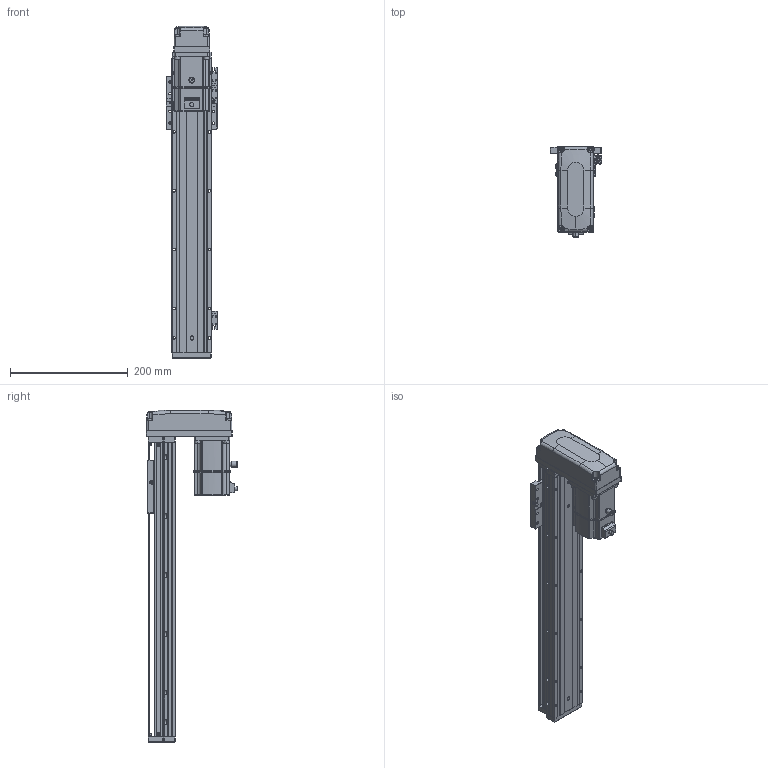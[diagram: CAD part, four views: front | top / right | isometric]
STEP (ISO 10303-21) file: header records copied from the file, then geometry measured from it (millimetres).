
FILE_DESCRIPTION (( 'STEP AP203' ), '1' );
FILE_NAME ('KTHAL60-350-BM-M20-C4L.step', '2022-12-16T02:10:08', ( '微软用户' ), ( '微软中国' ), 'SwSTEP 2.0', 'SolidWorks 2020', '' );
FILE_SCHEMA (( 'CONFIG_CONTROL_DESIGN' ));
Length unit declared in the file: millimetre
Products named in the file (17): GBT 70.3-M3℅6; CTHA60-016; EE_SX911P_R; _X2_4E0983F1_X0_200W_1; KTHA60-001_500; CTHA60-017; CTHA60-015-4_CTHA60-015-4; KTHLA60-002; CTHA60-021; GTH80-026; KTHA60-004; GBT 70.1-M4×16; KTHAL60-350-BM-M20-C4L; KTHA60-005; GBT77-2000M3-3; GB¨uT 70.2-M3¡Á5_M3¡Á6; GBT 70.1-M3℅6
Assembly tree (45 placements, depth 2):
  KTHAL60-350-BM-M20-C4L
    KTHA60-001_500
    KTHLA60-002
    KTHA60-004
    KTHA60-005
    GB¨uT 70.2-M3¡Á5_M3¡Á6  x5
    GBT 70.3-M3℅6  x4
    EE_SX911P_R  x3
    CTHA60-017  x3
    CTHA60-021  x2
    GBT 70.1-M4×16  x8
    GBT77-2000M3-3  x6
    GBT 70.1-M3℅6  x6
    CTHA60-016
    _X2_4E0983F1_X0_200W_1
    CTHA60-015-4_CTHA60-015-4
    GTH80-026
Bounding box: 87.82 x 155.2 x 564 mm (x, y, z)
Volume: 1677378.5 mm3; surface area: 350478.4 mm2
Topology: 48 solids, 48 shells, 2331 faces, 5548 edges, 3409 vertices
Faces by surface type: plane 1247, cylinder 617, cone 268, bspline 103, torus 82, sphere 14
Entity records: 45247 total; most frequent: CARTESIAN_POINT 10154, DIRECTION 6811, ORIENTED_EDGE 6720, EDGE_CURVE 3360, AXIS2_PLACEMENT_3D 2350, LINE 2111, VECTOR 2111, VERTEX_POINT 2093
